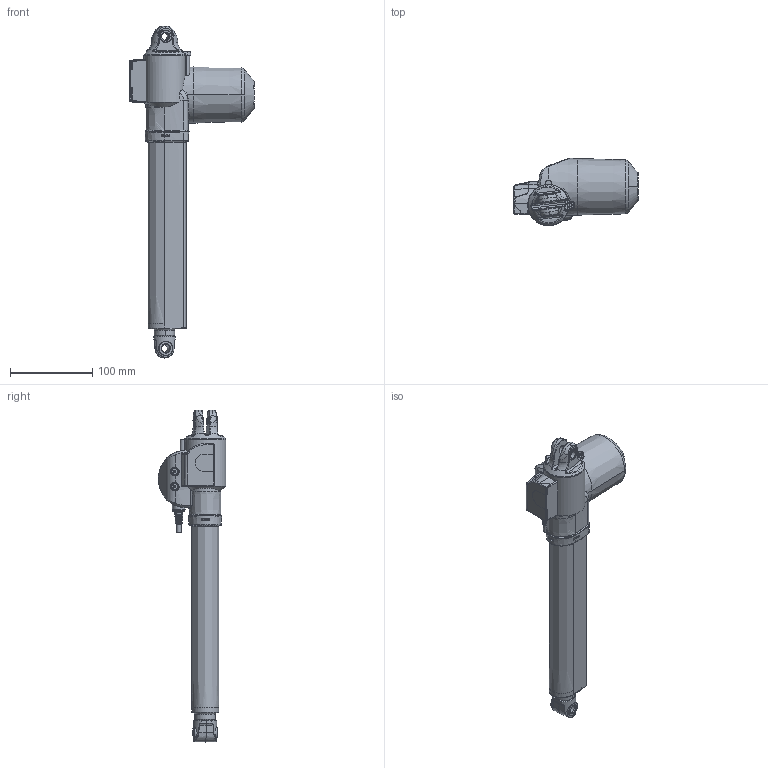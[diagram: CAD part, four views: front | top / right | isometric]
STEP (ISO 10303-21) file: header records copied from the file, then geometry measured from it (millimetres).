
FILE_DESCRIPTION((''),'2;1');
FILE_NAME('1067W4001_ASM','2023-12-14T10:46:46',('cnkz2'),(''),'CREO PARAMETRIC BY PTC INC, 2022024','CREO PARAMETRIC BY PTC INC, 2022024','');
FILE_SCHEMA(('CONFIG_CONTROL_DESIGN'));
Length unit declared in the file: millimetre
Products named in the file (6): 1067W4001-H; 1067W4001-PR; 1067W4001-OT; 1067W4001-BF; 1067W4001-OL; 1067W4001_ASM
Assembly tree (5 placements, depth 2):
  1067W4001_ASM
    1067W4001-H
    1067W4001-PR
    1067W4001-OT
    1067W4001-BF
    1067W4001-OL
Bounding box: 151.82 x 81.94 x 404.05 mm (x, y, z)
Volume: 1175634.6 mm3; surface area: 147170.2 mm2
Topology: 5 solids, 47 shells, 1884 faces, 4703 edges, 2948 vertices
Faces by surface type: plane 585, cylinder 471, bspline 424, cone 210, torus 139, extrusion 36, sphere 12, revolution 7
Entity records: 80395 total; most frequent: CARTESIAN_POINT 38941, ORIENTED_EDGE 9394, DIRECTION 7531, EDGE_CURVE 4697, VERTEX_POINT 2948, AXIS2_PLACEMENT_3D 2917, EDGE_LOOP 1963, FACE_OUTER_BOUND 1884
